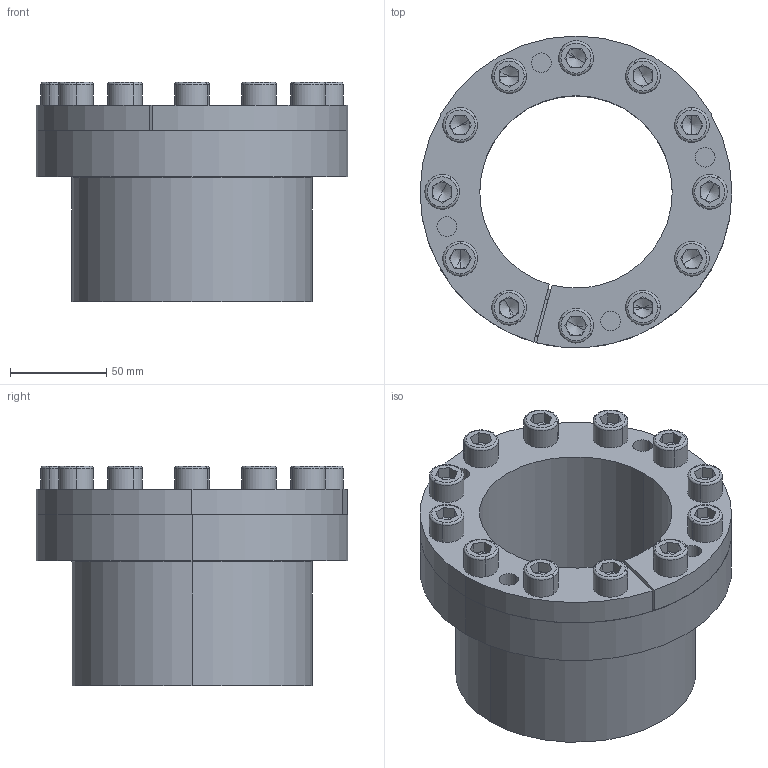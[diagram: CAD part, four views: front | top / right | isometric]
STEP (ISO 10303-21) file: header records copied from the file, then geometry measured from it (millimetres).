
FILE_DESCRIPTION (( 'STEP AP214' ), '1' );
FILE_NAME ('CONEX-B-100x125.step', '2013-04-04T12:42:40', ( 'Pc' ), ( '' ), 'SwSTEP 2.0', 'SolidWorks 2013', '' );
FILE_SCHEMA (( 'AUTOMOTIVE_DESIGN' ));
Length unit declared in the file: millimetre
Products named in the file (1): CONEX-B-100x125
Bounding box: 162 x 162 x 114 mm (x, y, z)
Volume: 705727.2 mm3; surface area: 235678.9 mm2
Topology: 15 solids, 15 shells, 420 faces, 962 edges, 572 vertices
Faces by surface type: plane 192, cylinder 120, torus 54, cone 54
Entity records: 16564 total; most frequent: DIRECTION 2226, CARTESIAN_POINT 1979, ORIENTED_EDGE 1876, EDGE_CURVE 938, AXIS2_PLACEMENT_3D 875, VERTEX_POINT 572, EDGE_LOOP 502, LINE 476
